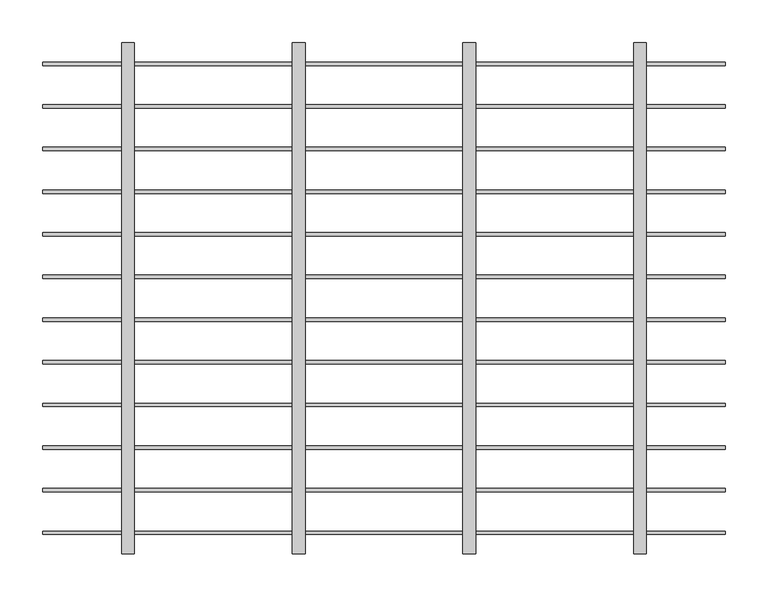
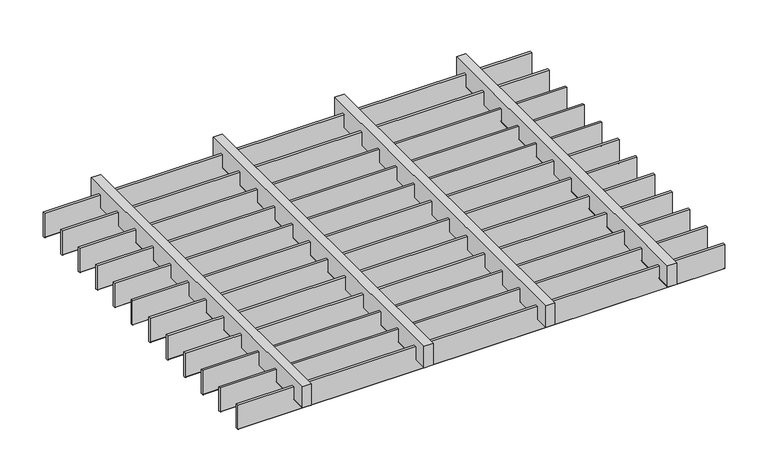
"""IFC4 building model written with IfcOpenShell, lengths in millimetres: proxy geometry, durlum_STARLAM_panel : durlum_STARLAM_4_length_cut."""

import ifcopenshell
import ifcopenshell.guid

model = None  # the IFC model being written
_history = None  # IfcOwnerHistory: only IFC2X3 demands one
_inside = {}  # id of a spatial element -> (the spatial element, [elements in it])
_under = {}  # id of a project, library or spatial element -> (it, [spatial elements below it])
_declared = {}  # id of a project -> (the project, [libraries it declares])
_typed = {}  # id of a type object -> (the type object, [elements of that type])
_made_of = {}  # id of a material, layer set ... -> (it, [elements and type objects made of it])


def new_model(schema):
    """Start an empty IFC model of exactly this schema.

    Asked for "IFC4X3", IfcOpenShell would pick the latest addendum, in which some entities
    have other attributes; the version numbers below select the first issue.
    IFC2X3 requires an IfcOwnerHistory on every rooted entity: one is made here for all.
    """
    global model, _history
    if schema == "IFC4X3":
        model = ifcopenshell.file(schema_version=(4, 3, 0, 0))
    else:
        model = ifcopenshell.file(schema=schema)
    _inside.clear()
    _under.clear()
    _declared.clear()
    _typed.clear()
    _made_of.clear()
    _history = None
    if model.schema == "IFC2X3":
        org = make("IfcOrganization", Name="unknown")
        user = make(
            "IfcPersonAndOrganization",
            ThePerson=make("IfcPerson", FamilyName="unknown"),
            TheOrganization=org,
        )
        app = make(
            "IfcApplication",
            ApplicationDeveloper=org,
            Version="unknown",
            ApplicationFullName="unknown",
            ApplicationIdentifier="unknown",
        )
        _history = make(
            "IfcOwnerHistory",
            OwningUser=user,
            OwningApplication=app,
            ChangeAction="ADDED",
            CreationDate=0,
        )
    return model


def make(cls, **values):
    """One entity of the class cls with the attributes given. An attribute that is None is left unset."""
    return model.create_entity(
        cls, **{name: value for name, value in values.items() if value is not None}
    )


def rooted(cls, **values):
    """An entity with a GlobalId (a new one), such as an element, a storey or a relation."""
    return make(cls, GlobalId=ifcopenshell.guid.new(), OwnerHistory=_history, **values)


def si_unit(unit_type, name, prefix=None):
    """IfcSIUnit, for example si_unit("LENGTHUNIT", "METRE", prefix="MILLI")."""
    return make("IfcSIUnit", UnitType=unit_type, Prefix=prefix, Name=name)


def assignment(units):
    """IfcUnitAssignment: the units of a project."""
    return None if units is None else make("IfcUnitAssignment", Units=units)


def point(xyz):
    """IfcCartesianPoint."""
    return None if xyz is None else make("IfcCartesianPoint", Coordinates=xyz)


def direction(xyz):
    """IfcDirection."""
    return None if xyz is None else make("IfcDirection", DirectionRatios=xyz)


def frame(location, z_axis=None, x_axis=None):
    """IfcAxis2Placement3D, a coordinate frame: its origin and axes. An axis left out is left unset."""
    return make(
        "IfcAxis2Placement3D",
        Location=point(location),
        Axis=direction(z_axis),
        RefDirection=direction(x_axis),
    )


def frame_2d(location, x_axis=None):
    """IfcAxis2Placement2D, a coordinate frame in the plane: its origin and x axis."""
    return make(
        "IfcAxis2Placement2D", Location=point(location), RefDirection=direction(x_axis)
    )


def origin():
    """The frame at (0, 0, 0) with its axes left unset."""
    return frame((0.0, 0.0, 0.0))


def place(relative_to, where):
    """IfcLocalPlacement: puts the frame where relative to a parent placement (None: the world)."""
    return make(
        "IfcLocalPlacement", PlacementRelTo=relative_to, RelativePlacement=where
    )


def context(
    kind, dimensions, precision=None, world=None, true_north=None, identifier=None
):
    """IfcGeometricRepresentationContext, for example the 3D "Model" context."""
    return make(
        "IfcGeometricRepresentationContext",
        ContextIdentifier=identifier,
        ContextType=kind,
        CoordinateSpaceDimension=dimensions,
        Precision=precision,
        WorldCoordinateSystem=world,
        TrueNorth=true_north,
    )


def project(units=None, contexts=None):
    """IfcProject with its units and contexts."""
    return rooted(
        "IfcProject",
        Name="project",
        RepresentationContexts=contexts,
        UnitsInContext=assignment(units),
    )


def spatial(cls, under=None, at=None, **own):
    """A site, building, storey or space (cls), placed at a placement, below another one or the project."""
    s = rooted(cls, ObjectPlacement=at, **own)
    if under is not None:
        _under.setdefault(under.id(), (under, []))[1].append(s)
    return s


def polyline(points):
    """IfcPolyline through the points."""
    return make("IfcPolyline", Points=[point(p) for p in points])


def circle_curve(where, radius):
    """IfcCircle in the frame where."""
    return make("IfcCircle", Position=where, Radius=radius)


def trimmed(basis, trim1, trim2, sense, master):
    """IfcTrimmedCurve: the piece of a basis curve between two trims."""
    return make(
        "IfcTrimmedCurve",
        BasisCurve=basis,
        Trim1=trim1,
        Trim2=trim2,
        SenseAgreement=sense,
        MasterRepresentation=master,
    )


def segment(curve, same_sense, transition):
    """IfcCompositeCurveSegment."""
    return make(
        "IfcCompositeCurveSegment",
        Transition=transition,
        SameSense=same_sense,
        ParentCurve=curve,
    )


def composite_curve(segments, self_intersect=None):
    """IfcCompositeCurve: segments joined end to end."""
    return make("IfcCompositeCurve", Segments=segments, SelfIntersect=self_intersect)


def outline(outer, holes=None, kind="AREA"):
    """IfcArbitraryClosedProfileDef: a profile drawn as a closed curve; with holes, ...WithVoids."""
    if holes is None:
        return make("IfcArbitraryClosedProfileDef", ProfileType=kind, OuterCurve=outer)
    return make(
        "IfcArbitraryProfileDefWithVoids",
        ProfileType=kind,
        OuterCurve=outer,
        InnerCurves=holes,
    )


def extrude(swept, where, along, depth):
    """IfcExtrudedAreaSolid: the profile swept, set in the frame where, extruded along a direction by depth."""
    return make(
        "IfcExtrudedAreaSolid",
        SweptArea=swept,
        Position=where,
        ExtrudedDirection=direction(along),
        Depth=depth,
    )


def shape(context_of_items, identifier, shape_type, items):
    """IfcShapeRepresentation: the items that make up one representation, for example the "Body"."""
    return make(
        "IfcShapeRepresentation",
        ContextOfItems=context_of_items,
        RepresentationIdentifier=identifier,
        RepresentationType=shape_type,
        Items=items,
    )


def source(mapping_origin, context_of_items, identifier, shape_type, items):
    """IfcRepresentationMap: a shape defined once, which mapped items show again and again."""
    return make(
        "IfcRepresentationMap",
        MappingOrigin=mapping_origin,
        MappedRepresentation=shape(context_of_items, identifier, shape_type, items),
    )


def transform(
    local_origin,
    x_axis=None,
    y_axis=None,
    z_axis=None,
    scale=None,
    scale2=None,
    scale3=None,
    uniform=True,
):
    """IfcCartesianTransformationOperator3D, or its non-uniform kind. x_axis, y_axis, z_axis: its Axis1, 2, 3."""
    if uniform:
        return make(
            "IfcCartesianTransformationOperator3D",
            Axis1=direction(x_axis),
            Axis2=direction(y_axis),
            LocalOrigin=point(local_origin),
            Scale=scale,
            Axis3=direction(z_axis),
        )
    return make(
        "IfcCartesianTransformationOperator3DnonUniform",
        Axis1=direction(x_axis),
        Axis2=direction(y_axis),
        LocalOrigin=point(local_origin),
        Scale=scale,
        Axis3=direction(z_axis),
        Scale2=scale2,
        Scale3=scale3,
    )


def mapped(mapping_source, mapping_target):
    """IfcMappedItem: shows the shape of a source again, moved by a transform."""
    return make(
        "IfcMappedItem", MappingSource=mapping_source, MappingTarget=mapping_target
    )


def made_of(thing, what):
    """Note that an element or type object is made of a material, layer set ...; save() writes the relation."""
    if what is not None:
        _made_of.setdefault(what.id(), (what, []))[1].append(thing)
    return thing


def element(
    cls,
    number,
    at=None,
    inside=None,
    cuts=None,
    type_object=None,
    material=None,
    context=None,
    identifier="Body",
    shape_type=None,
    held_by="IfcProductDefinitionShape",
    body=None,
    shapes=None,
    **own,
):
    """One element of the class cls, such as IfcWall. Its Tag is "e" and its number.

    at: its placement. inside: the storey or other place that contains it. cuts: it is an
    opening in that element (IfcRelVoidsElement). A single representation is given by context,
    identifier, shape_type and body (its items); several are given by shapes. held_by: the class
    of the entity that holds the representations. save() writes the other relations.
    """
    e = rooted(cls, Tag="e%d" % number, ObjectPlacement=at, **own)
    if body is not None:
        shapes = [shape(context, identifier, shape_type, body)]
    if shapes is not None:
        e.Representation = make(held_by, Representations=shapes)
    if inside is not None:
        _inside.setdefault(inside.id(), (inside, []))[1].append(e)
    if cuts is not None:
        rooted(
            "IfcRelVoidsElement", RelatingBuildingElement=cuts, RelatedOpeningElement=e
        )
    if type_object is not None:
        _typed.setdefault(type_object.id(), (type_object, []))[1].append(e)
    return made_of(e, material)


def aggregate(whole, parts):
    """IfcRelAggregates: a whole, such as a stair, and the parts it consists of."""
    return rooted("IfcRelAggregates", RelatingObject=whole, RelatedObjects=parts)


def save(model, path):
    """Write the relations noted so far, then the file.

    IfcRelAggregates (storeys below a building ...), IfcRelContainedInSpatialStructure (elements
    in a storey), IfcRelDefinesByType, IfcRelAssociatesMaterial and IfcRelDeclares: one each for
    every whole, place, type object, material and project.
    """
    for whole, parts in _under.values():
        aggregate(whole, parts)
    for where, things in _inside.values():
        rooted(
            "IfcRelContainedInSpatialStructure",
            RelatedElements=things,
            RelatingStructure=where,
        )
    for kind, things in _typed.values():
        rooted("IfcRelDefinesByType", RelatedObjects=things, RelatingType=kind)
    for what, things in _made_of.values():
        rooted("IfcRelAssociatesMaterial", RelatedObjects=things, RelatingMaterial=what)
    for by, libraries in _declared.values():
        rooted("IfcRelDeclares", RelatingContext=by, RelatedDefinitions=libraries)
    model.write(path)


def generic_models_6d1325e8(model_context):
    return source(origin(), model_context, "Body", "SweptSolid", [
        extrude(outline(composite_curve([segment(polyline([(-227.0, 42.0), (-223.0, 42.0), (-223.0, 0.5)]), True, "CONTINUOUS"), segment(trimmed(circle_curve(frame_2d((-223.5, 0.5)), 0.5), [point((-223.0, 0.5))], [point((-223.5, 0.0))], False, "CARTESIAN"), True, "CONTINUOUS"), segment(polyline([(-223.5, 0.0), (-226.5, 0.0)]), True, "CONTINUOUS"), segment(trimmed(circle_curve(frame_2d((-226.5, 0.5)), 0.5), [point((-226.5, 0.0))], [point((-227.0, 0.5))], False, "CARTESIAN"), True, "CONTINUOUS"), segment(polyline([(-227.0, 0.5), (-227.0, 42.0)]), True, "CONTINUOUS")], self_intersect=False)), frame((-399.875, 0.0, 0.0), z_axis=(1.0, 0.0, 0.0), x_axis=(0.0, 1.0, 0.0)), (0.0, 0.0, 1.0), 799.75),
        extrude(outline(composite_curve([segment(polyline([(-177.0, 42.0), (-173.0, 42.0), (-173.0, 0.5)]), True, "CONTINUOUS"), segment(trimmed(circle_curve(frame_2d((-173.5, 0.5)), 0.5), [point((-173.0, 0.5))], [point((-173.5, 0.0))], False, "CARTESIAN"), True, "CONTINUOUS"), segment(polyline([(-173.5, 0.0), (-176.5, 0.0)]), True, "CONTINUOUS"), segment(trimmed(circle_curve(frame_2d((-176.5, 0.5)), 0.5), [point((-176.5, 0.0))], [point((-177.0, 0.5))], False, "CARTESIAN"), True, "CONTINUOUS"), segment(polyline([(-177.0, 0.5), (-177.0, 42.0)]), True, "CONTINUOUS")], self_intersect=False)), frame((-399.875, 0.0, 0.0), z_axis=(1.0, 0.0, 0.0), x_axis=(0.0, 1.0, 0.0)), (0.0, 0.0, 1.0), 799.75),
        extrude(outline(composite_curve([segment(polyline([(-127.0, 42.0), (-123.0, 42.0), (-123.0, 0.5)]), True, "CONTINUOUS"), segment(trimmed(circle_curve(frame_2d((-123.5, 0.5)), 0.5), [point((-123.0, 0.5))], [point((-123.5, 0.0))], False, "CARTESIAN"), True, "CONTINUOUS"), segment(polyline([(-123.5, 0.0), (-126.5, 0.0)]), True, "CONTINUOUS"), segment(trimmed(circle_curve(frame_2d((-126.5, 0.5)), 0.5), [point((-126.5, 0.0))], [point((-127.0, 0.5))], False, "CARTESIAN"), True, "CONTINUOUS"), segment(polyline([(-127.0, 0.5), (-127.0, 42.0)]), True, "CONTINUOUS")], self_intersect=False)), frame((-399.875, 0.0, 0.0), z_axis=(1.0, 0.0, 0.0), x_axis=(0.0, 1.0, 0.0)), (0.0, 0.0, 1.0), 799.75),
        extrude(outline(composite_curve([segment(polyline([(-77.0, 42.0), (-73.0, 42.0), (-73.0, 0.5)]), True, "CONTINUOUS"), segment(trimmed(circle_curve(frame_2d((-73.5, 0.5)), 0.5), [point((-73.0, 0.5))], [point((-73.5, 0.0))], False, "CARTESIAN"), True, "CONTINUOUS"), segment(polyline([(-73.5, 0.0), (-76.5, 0.0)]), True, "CONTINUOUS"), segment(trimmed(circle_curve(frame_2d((-76.5, 0.5)), 0.5), [point((-76.5, 0.0))], [point((-77.0, 0.5))], False, "CARTESIAN"), True, "CONTINUOUS"), segment(polyline([(-77.0, 0.5), (-77.0, 42.0)]), True, "CONTINUOUS")], self_intersect=False)), frame((-399.875, 0.0, 0.0), z_axis=(1.0, 0.0, 0.0), x_axis=(0.0, 1.0, 0.0)), (0.0, 0.0, 1.0), 799.75),
        extrude(outline(composite_curve([segment(polyline([(56.0, 107.5), (56.0, 92.5), (19.5, 92.5)]), True, "CONTINUOUS"), segment(trimmed(circle_curve(frame_2d((19.5, 93.0)), 0.5), [point((19.5, 92.5))], [point((19.0, 93.0))], False, "CARTESIAN"), True, "CONTINUOUS"), segment(polyline([(19.0, 93.0), (19.0, 107.0)]), True, "CONTINUOUS"), segment(trimmed(circle_curve(frame_2d((19.5, 107.0)), 0.5), [point((19.0, 107.0))], [point((19.5, 107.5))], False, "CARTESIAN"), True, "CONTINUOUS"), segment(polyline([(19.5, 107.5), (56.0, 107.5)]), True, "CONTINUOUS")], self_intersect=False)), frame((0.0, -299.75, 0.0), z_axis=(0.0, 1.0, 0.0), x_axis=(0.0, 0.0, 1.0)), (0.0, 0.0, 1.0), 599.5),
        extrude(outline(composite_curve([segment(polyline([(56.0, -92.5), (56.0, -107.5), (19.5, -107.5)]), True, "CONTINUOUS"), segment(trimmed(circle_curve(frame_2d((19.5, -107.0)), 0.5), [point((19.5, -107.5))], [point((19.0, -107.0))], False, "CARTESIAN"), True, "CONTINUOUS"), segment(polyline([(19.0, -107.0), (19.0, -93.0)]), True, "CONTINUOUS"), segment(trimmed(circle_curve(frame_2d((19.5, -93.0)), 0.5), [point((19.0, -93.0))], [point((19.5, -92.5))], False, "CARTESIAN"), True, "CONTINUOUS"), segment(polyline([(19.5, -92.5), (56.0, -92.5)]), True, "CONTINUOUS")], self_intersect=False)), frame((0.0, -299.75, 0.0), z_axis=(0.0, 1.0, 0.0), x_axis=(0.0, 0.0, 1.0)), (0.0, 0.0, 1.0), 599.5),
        extrude(outline(composite_curve([segment(polyline([(-27.0, 42.0), (-23.0, 42.0), (-23.0, 0.5)]), True, "CONTINUOUS"), segment(trimmed(circle_curve(frame_2d((-23.5, 0.5)), 0.5), [point((-23.0, 0.5))], [point((-23.5, 0.0))], False, "CARTESIAN"), True, "CONTINUOUS"), segment(polyline([(-23.5, 0.0), (-26.5, 0.0)]), True, "CONTINUOUS"), segment(trimmed(circle_curve(frame_2d((-26.5, 0.5)), 0.5), [point((-26.5, 0.0))], [point((-27.0, 0.5))], False, "CARTESIAN"), True, "CONTINUOUS"), segment(polyline([(-27.0, 0.5), (-27.0, 42.0)]), True, "CONTINUOUS")], self_intersect=False)), frame((-399.875, 0.0, 0.0), z_axis=(1.0, 0.0, 0.0), x_axis=(0.0, 1.0, 0.0)), (0.0, 0.0, 1.0), 799.75),
        extrude(outline(composite_curve([segment(polyline([(23.0, 42.0), (27.0, 42.0), (27.0, 0.5)]), True, "CONTINUOUS"), segment(trimmed(circle_curve(frame_2d((26.5, 0.5)), 0.5), [point((27.0, 0.5))], [point((26.5, 0.0))], False, "CARTESIAN"), True, "CONTINUOUS"), segment(polyline([(26.5, 0.0), (23.5, 0.0)]), True, "CONTINUOUS"), segment(trimmed(circle_curve(frame_2d((23.5, 0.5)), 0.5), [point((23.5, 0.0))], [point((23.0, 0.5))], False, "CARTESIAN"), True, "CONTINUOUS"), segment(polyline([(23.0, 0.5), (23.0, 42.0)]), True, "CONTINUOUS")], self_intersect=False)), frame((-399.875, 0.0, 0.0), z_axis=(1.0, 0.0, 0.0), x_axis=(0.0, 1.0, 0.0)), (0.0, 0.0, 1.0), 799.75),
        extrude(outline(composite_curve([segment(polyline([(73.0, 42.0), (77.0, 42.0), (77.0, 0.5)]), True, "CONTINUOUS"), segment(trimmed(circle_curve(frame_2d((76.5, 0.5)), 0.5), [point((77.0, 0.5))], [point((76.5, 0.0))], False, "CARTESIAN"), True, "CONTINUOUS"), segment(polyline([(76.5, 0.0), (73.5, 0.0)]), True, "CONTINUOUS"), segment(trimmed(circle_curve(frame_2d((73.5, 0.5)), 0.5), [point((73.5, 0.0))], [point((73.0, 0.5))], False, "CARTESIAN"), True, "CONTINUOUS"), segment(polyline([(73.0, 0.5), (73.0, 42.0)]), True, "CONTINUOUS")], self_intersect=False)), frame((-399.875, 0.0, 0.0), z_axis=(1.0, 0.0, 0.0), x_axis=(0.0, 1.0, 0.0)), (0.0, 0.0, 1.0), 799.75),
        extrude(outline(composite_curve([segment(polyline([(123.0, 42.0), (127.0, 42.0), (127.0, 0.5)]), True, "CONTINUOUS"), segment(trimmed(circle_curve(frame_2d((126.5, 0.5)), 0.5), [point((127.0, 0.5))], [point((126.5, 0.0))], False, "CARTESIAN"), True, "CONTINUOUS"), segment(polyline([(126.5, 0.0), (123.5, 0.0)]), True, "CONTINUOUS"), segment(trimmed(circle_curve(frame_2d((123.5, 0.5)), 0.5), [point((123.5, 0.0))], [point((123.0, 0.5))], False, "CARTESIAN"), True, "CONTINUOUS"), segment(polyline([(123.0, 0.5), (123.0, 42.0)]), True, "CONTINUOUS")], self_intersect=False)), frame((-399.875, 0.0, 0.0), z_axis=(1.0, 0.0, 0.0), x_axis=(0.0, 1.0, 0.0)), (0.0, 0.0, 1.0), 799.75),
        extrude(outline(composite_curve([segment(polyline([(173.0, 42.0), (177.0, 42.0), (177.0, 0.5)]), True, "CONTINUOUS"), segment(trimmed(circle_curve(frame_2d((176.5, 0.5)), 0.5), [point((177.0, 0.5))], [point((176.5, 0.0))], False, "CARTESIAN"), True, "CONTINUOUS"), segment(polyline([(176.5, 0.0), (173.5, 0.0)]), True, "CONTINUOUS"), segment(trimmed(circle_curve(frame_2d((173.5, 0.5)), 0.5), [point((173.5, 0.0))], [point((173.0, 0.5))], False, "CARTESIAN"), True, "CONTINUOUS"), segment(polyline([(173.0, 0.5), (173.0, 42.0)]), True, "CONTINUOUS")], self_intersect=False)), frame((-399.875, 0.0, 0.0), z_axis=(1.0, 0.0, 0.0), x_axis=(0.0, 1.0, 0.0)), (0.0, 0.0, 1.0), 799.75),
        extrude(outline(composite_curve([segment(polyline([(223.0, 42.0), (227.0, 42.0), (227.0, 0.5)]), True, "CONTINUOUS"), segment(trimmed(circle_curve(frame_2d((226.5, 0.5)), 0.5), [point((227.0, 0.5))], [point((226.5, 0.0))], False, "CARTESIAN"), True, "CONTINUOUS"), segment(polyline([(226.5, 0.0), (223.5, 0.0)]), True, "CONTINUOUS"), segment(trimmed(circle_curve(frame_2d((223.5, 0.5)), 0.5), [point((223.5, 0.0))], [point((223.0, 0.5))], False, "CARTESIAN"), True, "CONTINUOUS"), segment(polyline([(223.0, 0.5), (223.0, 42.0)]), True, "CONTINUOUS")], self_intersect=False)), frame((-399.875, 0.0, 0.0), z_axis=(1.0, 0.0, 0.0), x_axis=(0.0, 1.0, 0.0)), (0.0, 0.0, 1.0), 799.75),
        extrude(outline(composite_curve([segment(polyline([(56.0, 307.5), (56.0, 292.5), (19.5, 292.5)]), True, "CONTINUOUS"), segment(trimmed(circle_curve(frame_2d((19.5, 293.0)), 0.5), [point((19.5, 292.5))], [point((19.0, 293.0))], False, "CARTESIAN"), True, "CONTINUOUS"), segment(polyline([(19.0, 293.0), (19.0, 307.0)]), True, "CONTINUOUS"), segment(trimmed(circle_curve(frame_2d((19.5, 307.0)), 0.5), [point((19.0, 307.0))], [point((19.5, 307.5))], False, "CARTESIAN"), True, "CONTINUOUS"), segment(polyline([(19.5, 307.5), (56.0, 307.5)]), True, "CONTINUOUS")], self_intersect=False)), frame((0.0, -299.75, 0.0), z_axis=(0.0, 1.0, 0.0), x_axis=(0.0, 0.0, 1.0)), (0.0, 0.0, 1.0), 599.5),
        extrude(outline(composite_curve([segment(polyline([(56.0, -292.5), (56.0, -307.5), (19.5, -307.5)]), True, "CONTINUOUS"), segment(trimmed(circle_curve(frame_2d((19.5, -307.0)), 0.5), [point((19.5, -307.5))], [point((19.0, -307.0))], False, "CARTESIAN"), True, "CONTINUOUS"), segment(polyline([(19.0, -307.0), (19.0, -293.0)]), True, "CONTINUOUS"), segment(trimmed(circle_curve(frame_2d((19.5, -293.0)), 0.5), [point((19.0, -293.0))], [point((19.5, -292.5))], False, "CARTESIAN"), True, "CONTINUOUS"), segment(polyline([(19.5, -292.5), (56.0, -292.5)]), True, "CONTINUOUS")], self_intersect=False)), frame((0.0, -299.75, 0.0), z_axis=(0.0, 1.0, 0.0), x_axis=(0.0, 0.0, 1.0)), (0.0, 0.0, 1.0), 599.5),
        extrude(outline(composite_curve([segment(polyline([(-277.0, 42.0), (-273.0, 42.0), (-273.0, 0.5)]), True, "CONTINUOUS"), segment(trimmed(circle_curve(frame_2d((-273.5, 0.5)), 0.5), [point((-273.0, 0.5))], [point((-273.5, 0.0))], False, "CARTESIAN"), True, "CONTINUOUS"), segment(polyline([(-273.5, 0.0), (-276.5, 0.0)]), True, "CONTINUOUS"), segment(trimmed(circle_curve(frame_2d((-276.5, 0.5)), 0.5), [point((-276.5, 0.0))], [point((-277.0, 0.5))], False, "CARTESIAN"), True, "CONTINUOUS"), segment(polyline([(-277.0, 0.5), (-277.0, 42.0)]), True, "CONTINUOUS")], self_intersect=False)), frame((-399.875, 0.0, 0.0), z_axis=(1.0, 0.0, 0.0), x_axis=(0.0, 1.0, 0.0)), (0.0, 0.0, 1.0), 799.75),
        extrude(outline(composite_curve([segment(polyline([(273.0, 42.0), (277.0, 42.0), (277.0, 0.5)]), True, "CONTINUOUS"), segment(trimmed(circle_curve(frame_2d((276.5, 0.5)), 0.5), [point((277.0, 0.5))], [point((276.5, 0.0))], False, "CARTESIAN"), True, "CONTINUOUS"), segment(polyline([(276.5, 0.0), (273.5, 0.0)]), True, "CONTINUOUS"), segment(trimmed(circle_curve(frame_2d((273.5, 0.5)), 0.5), [point((273.5, 0.0))], [point((273.0, 0.5))], False, "CARTESIAN"), True, "CONTINUOUS"), segment(polyline([(273.0, 0.5), (273.0, 42.0)]), True, "CONTINUOUS")], self_intersect=False)), frame((-399.875, 0.0, 0.0), z_axis=(1.0, 0.0, 0.0), x_axis=(0.0, 1.0, 0.0)), (0.0, 0.0, 1.0), 799.75),
    ])


if __name__ == "__main__":
    model = new_model("IFC4")
    model_context = context("Model", 3, world=origin())
    ifc_project = project(units=[si_unit("LENGTHUNIT", "METRE", prefix="MILLI")], contexts=[model_context])
    site = spatial("IfcSite", under=ifc_project)
    building = spatial("IfcBuilding", under=site)
    placement = place(None, origin())
    generic_models_shape = generic_models_6d1325e8(model_context)
    element("IfcBuildingElementProxy", 1, Name="durlum_STARLAM_panel : durlum_STARLAM_4_length_cut", ObjectType="durlum_STARLAM_panel : durlum_STARLAM_4_length_cut", at=placement, inside=building, context=model_context, shape_type="MappedRepresentation", body=[
        mapped(generic_models_shape, transform((0.0, 0.0, 0.0), x_axis=(1.0, 0.0, 0.0), y_axis=(0.0, 1.0, 0.0), z_axis=(0.0, 0.0, 1.0))),
    ])
    save(model, "model.ifc")
